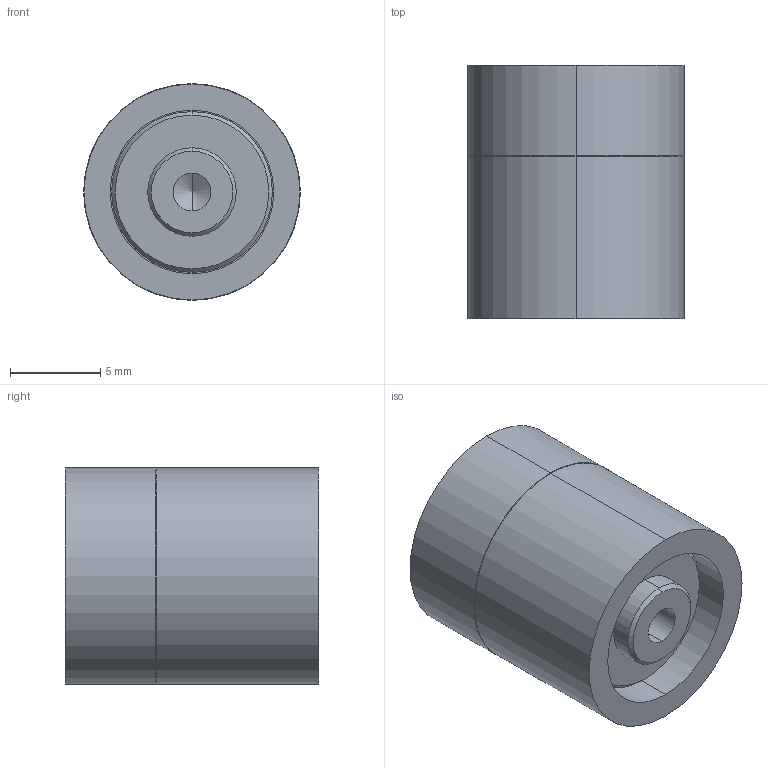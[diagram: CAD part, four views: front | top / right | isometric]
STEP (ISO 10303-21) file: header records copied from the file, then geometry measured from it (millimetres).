
FILE_DESCRIPTION (( 'STEP AP203' ), '1' );
FILE_NAME ('VA12.STEP', '2008-04-21T07:11:54', ( ' ' ), ( ' ' ), 'SwSTEP 2.0', 'SolidWorks 2005204', '' );
FILE_SCHEMA (( 'CONFIG_CONTROL_DESIGN' ));
Length unit declared in the file: millimetre
Products named in the file (1): VA12
Bounding box: 12 x 14 x 12 mm (x, y, z)
Volume: 1352.4 mm3; surface area: 1530 mm2
Topology: 2 solids, 2 shells, 42 faces, 88 edges, 53 vertices
Faces by surface type: cylinder 20, cone 14, plane 8
Entity records: 1297 total; most frequent: CARTESIAN_POINT 298, DIRECTION 208, ORIENTED_EDGE 172, AXIS2_PLACEMENT_3D 87, EDGE_CURVE 86, EDGE_LOOP 53, VERTEX_POINT 53, CIRCLE 44
